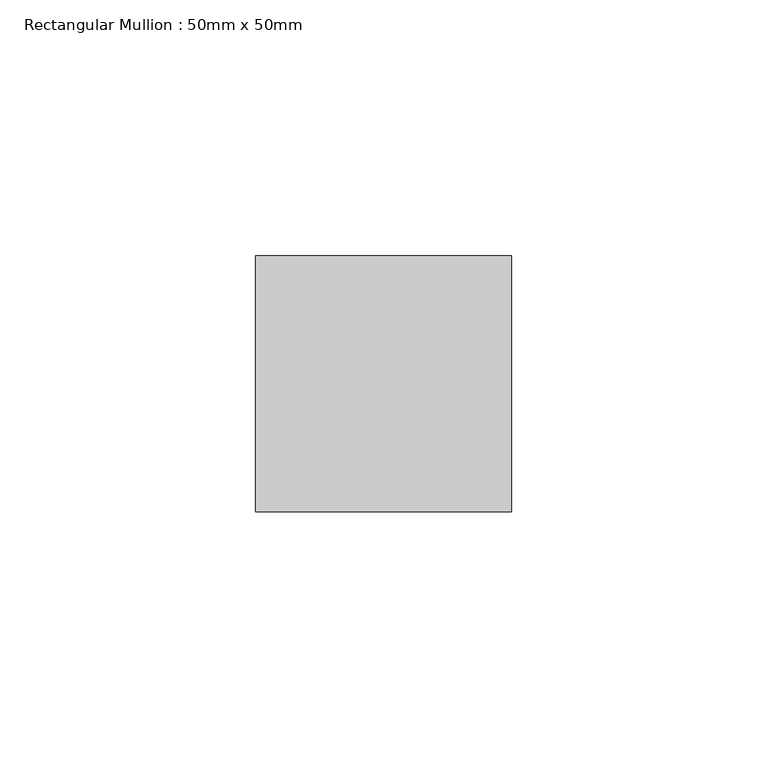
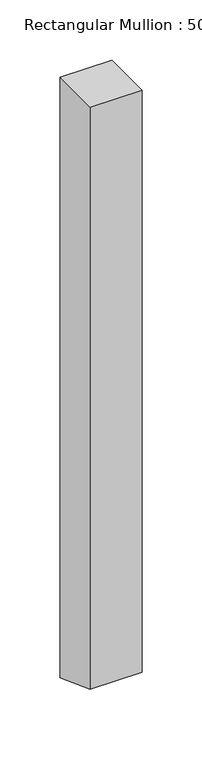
"""IFC4 building model written with IfcOpenShell, lengths in millimetres: member geometry, Rectangular Mullion : 50mm x 50mm."""

import ifcopenshell
import ifcopenshell.guid

model = None  # the IFC model being written
_history = None  # IfcOwnerHistory: only IFC2X3 demands one
_inside = {}  # id of a spatial element -> (the spatial element, [elements in it])
_under = {}  # id of a project, library or spatial element -> (it, [spatial elements below it])
_declared = {}  # id of a project -> (the project, [libraries it declares])
_typed = {}  # id of a type object -> (the type object, [elements of that type])
_made_of = {}  # id of a material, layer set ... -> (it, [elements and type objects made of it])


def new_model(schema):
    """Start an empty IFC model of exactly this schema.

    Asked for "IFC4X3", IfcOpenShell would pick the latest addendum, in which some entities
    have other attributes; the version numbers below select the first issue.
    IFC2X3 requires an IfcOwnerHistory on every rooted entity: one is made here for all.
    """
    global model, _history
    if schema == "IFC4X3":
        model = ifcopenshell.file(schema_version=(4, 3, 0, 0))
    else:
        model = ifcopenshell.file(schema=schema)
    _inside.clear()
    _under.clear()
    _declared.clear()
    _typed.clear()
    _made_of.clear()
    _history = None
    if model.schema == "IFC2X3":
        org = make("IfcOrganization", Name="unknown")
        user = make(
            "IfcPersonAndOrganization",
            ThePerson=make("IfcPerson", FamilyName="unknown"),
            TheOrganization=org,
        )
        app = make(
            "IfcApplication",
            ApplicationDeveloper=org,
            Version="unknown",
            ApplicationFullName="unknown",
            ApplicationIdentifier="unknown",
        )
        _history = make(
            "IfcOwnerHistory",
            OwningUser=user,
            OwningApplication=app,
            ChangeAction="ADDED",
            CreationDate=0,
        )
    return model


def make(cls, **values):
    """One entity of the class cls with the attributes given. An attribute that is None is left unset."""
    return model.create_entity(
        cls, **{name: value for name, value in values.items() if value is not None}
    )


def rooted(cls, **values):
    """An entity with a GlobalId (a new one), such as an element, a storey or a relation."""
    return make(cls, GlobalId=ifcopenshell.guid.new(), OwnerHistory=_history, **values)


def si_unit(unit_type, name, prefix=None):
    """IfcSIUnit, for example si_unit("LENGTHUNIT", "METRE", prefix="MILLI")."""
    return make("IfcSIUnit", UnitType=unit_type, Prefix=prefix, Name=name)


def assignment(units):
    """IfcUnitAssignment: the units of a project."""
    return None if units is None else make("IfcUnitAssignment", Units=units)


def point(xyz):
    """IfcCartesianPoint."""
    return None if xyz is None else make("IfcCartesianPoint", Coordinates=xyz)


def direction(xyz):
    """IfcDirection."""
    return None if xyz is None else make("IfcDirection", DirectionRatios=xyz)


def frame(location, z_axis=None, x_axis=None):
    """IfcAxis2Placement3D, a coordinate frame: its origin and axes. An axis left out is left unset."""
    return make(
        "IfcAxis2Placement3D",
        Location=point(location),
        Axis=direction(z_axis),
        RefDirection=direction(x_axis),
    )


def origin():
    """The frame at (0, 0, 0) with its axes left unset."""
    return frame((0.0, 0.0, 0.0))


def place(relative_to, where):
    """IfcLocalPlacement: puts the frame where relative to a parent placement (None: the world)."""
    return make(
        "IfcLocalPlacement", PlacementRelTo=relative_to, RelativePlacement=where
    )


def context(
    kind, dimensions, precision=None, world=None, true_north=None, identifier=None
):
    """IfcGeometricRepresentationContext, for example the 3D "Model" context."""
    return make(
        "IfcGeometricRepresentationContext",
        ContextIdentifier=identifier,
        ContextType=kind,
        CoordinateSpaceDimension=dimensions,
        Precision=precision,
        WorldCoordinateSystem=world,
        TrueNorth=true_north,
    )


def project(units=None, contexts=None):
    """IfcProject with its units and contexts."""
    return rooted(
        "IfcProject",
        Name="project",
        RepresentationContexts=contexts,
        UnitsInContext=assignment(units),
    )


def spatial(cls, under=None, at=None, **own):
    """A site, building, storey or space (cls), placed at a placement, below another one or the project."""
    s = rooted(cls, ObjectPlacement=at, **own)
    if under is not None:
        _under.setdefault(under.id(), (under, []))[1].append(s)
    return s


def polyline(points):
    """IfcPolyline through the points."""
    return make("IfcPolyline", Points=[point(p) for p in points])


def outline(outer, holes=None, kind="AREA"):
    """IfcArbitraryClosedProfileDef: a profile drawn as a closed curve; with holes, ...WithVoids."""
    if holes is None:
        return make("IfcArbitraryClosedProfileDef", ProfileType=kind, OuterCurve=outer)
    return make(
        "IfcArbitraryProfileDefWithVoids",
        ProfileType=kind,
        OuterCurve=outer,
        InnerCurves=holes,
    )


def extrude(swept, where, along, depth):
    """IfcExtrudedAreaSolid: the profile swept, set in the frame where, extruded along a direction by depth."""
    return make(
        "IfcExtrudedAreaSolid",
        SweptArea=swept,
        Position=where,
        ExtrudedDirection=direction(along),
        Depth=depth,
    )


def shape(context_of_items, identifier, shape_type, items):
    """IfcShapeRepresentation: the items that make up one representation, for example the "Body"."""
    return make(
        "IfcShapeRepresentation",
        ContextOfItems=context_of_items,
        RepresentationIdentifier=identifier,
        RepresentationType=shape_type,
        Items=items,
    )


def source(mapping_origin, context_of_items, identifier, shape_type, items):
    """IfcRepresentationMap: a shape defined once, which mapped items show again and again."""
    return make(
        "IfcRepresentationMap",
        MappingOrigin=mapping_origin,
        MappedRepresentation=shape(context_of_items, identifier, shape_type, items),
    )


def transform(
    local_origin,
    x_axis=None,
    y_axis=None,
    z_axis=None,
    scale=None,
    scale2=None,
    scale3=None,
    uniform=True,
):
    """IfcCartesianTransformationOperator3D, or its non-uniform kind. x_axis, y_axis, z_axis: its Axis1, 2, 3."""
    if uniform:
        return make(
            "IfcCartesianTransformationOperator3D",
            Axis1=direction(x_axis),
            Axis2=direction(y_axis),
            LocalOrigin=point(local_origin),
            Scale=scale,
            Axis3=direction(z_axis),
        )
    return make(
        "IfcCartesianTransformationOperator3DnonUniform",
        Axis1=direction(x_axis),
        Axis2=direction(y_axis),
        LocalOrigin=point(local_origin),
        Scale=scale,
        Axis3=direction(z_axis),
        Scale2=scale2,
        Scale3=scale3,
    )


def mapped(mapping_source, mapping_target):
    """IfcMappedItem: shows the shape of a source again, moved by a transform."""
    return make(
        "IfcMappedItem", MappingSource=mapping_source, MappingTarget=mapping_target
    )


def made_of(thing, what):
    """Note that an element or type object is made of a material, layer set ...; save() writes the relation."""
    if what is not None:
        _made_of.setdefault(what.id(), (what, []))[1].append(thing)
    return thing


def element(
    cls,
    number,
    at=None,
    inside=None,
    cuts=None,
    type_object=None,
    material=None,
    context=None,
    identifier="Body",
    shape_type=None,
    held_by="IfcProductDefinitionShape",
    body=None,
    shapes=None,
    **own,
):
    """One element of the class cls, such as IfcWall. Its Tag is "e" and its number.

    at: its placement. inside: the storey or other place that contains it. cuts: it is an
    opening in that element (IfcRelVoidsElement). A single representation is given by context,
    identifier, shape_type and body (its items); several are given by shapes. held_by: the class
    of the entity that holds the representations. save() writes the other relations.
    """
    e = rooted(cls, Tag="e%d" % number, ObjectPlacement=at, **own)
    if body is not None:
        shapes = [shape(context, identifier, shape_type, body)]
    if shapes is not None:
        e.Representation = make(held_by, Representations=shapes)
    if inside is not None:
        _inside.setdefault(inside.id(), (inside, []))[1].append(e)
    if cuts is not None:
        rooted(
            "IfcRelVoidsElement", RelatingBuildingElement=cuts, RelatedOpeningElement=e
        )
    if type_object is not None:
        _typed.setdefault(type_object.id(), (type_object, []))[1].append(e)
    return made_of(e, material)


def aggregate(whole, parts):
    """IfcRelAggregates: a whole, such as a stair, and the parts it consists of."""
    return rooted("IfcRelAggregates", RelatingObject=whole, RelatedObjects=parts)


def save(model, path):
    """Write the relations noted so far, then the file.

    IfcRelAggregates (storeys below a building ...), IfcRelContainedInSpatialStructure (elements
    in a storey), IfcRelDefinesByType, IfcRelAssociatesMaterial and IfcRelDeclares: one each for
    every whole, place, type object, material and project.
    """
    for whole, parts in _under.values():
        aggregate(whole, parts)
    for where, things in _inside.values():
        rooted(
            "IfcRelContainedInSpatialStructure",
            RelatedElements=things,
            RelatingStructure=where,
        )
    for kind, things in _typed.values():
        rooted("IfcRelDefinesByType", RelatedObjects=things, RelatingType=kind)
    for what, things in _made_of.values():
        rooted("IfcRelAssociatesMaterial", RelatedObjects=things, RelatingMaterial=what)
    for by, libraries in _declared.values():
        rooted("IfcRelDeclares", RelatingContext=by, RelatedDefinitions=libraries)
    model.write(path)


def rectangular_mullion_50mm_x_50mm_345c1092(model_context):
    return source(origin(), model_context, "Body", "SweptSolid", [
        extrude(outline(polyline([(-25.0, 0.0), (25.0, 0.0), (25.0, -609.3435582), (-25.0, -590.6564418), (-25.0, 0.0)])), frame((-50.0, 0.0, 0.0), z_axis=(1.0, 0.0, 0.0), x_axis=(0.0, 1.0, 0.0)), (0.0, 0.0, 1.0), 50.0),
    ])


if __name__ == "__main__":
    model = new_model("IFC4")
    model_context = context("Model", 3, world=origin())
    ifc_project = project(units=[si_unit("LENGTHUNIT", "METRE", prefix="MILLI")], contexts=[model_context])
    site = spatial("IfcSite", under=ifc_project)
    building = spatial("IfcBuilding", under=site)
    placement = place(None, origin())
    rectangular_mullion_50mm_x_50mm_shape = rectangular_mullion_50mm_x_50mm_345c1092(model_context)
    element("IfcMember", 1, ObjectType="Rectangular Mullion : 50mm x 50mm", at=placement, inside=building, context=model_context, shape_type="MappedRepresentation", body=[
        mapped(rectangular_mullion_50mm_x_50mm_shape, transform((0.0, 0.0, 0.0), x_axis=(1.0, 0.0, 0.0), y_axis=(0.0, 1.0, 0.0), z_axis=(0.0, 0.0, 1.0))),
    ])
    save(model, "model.ifc")
